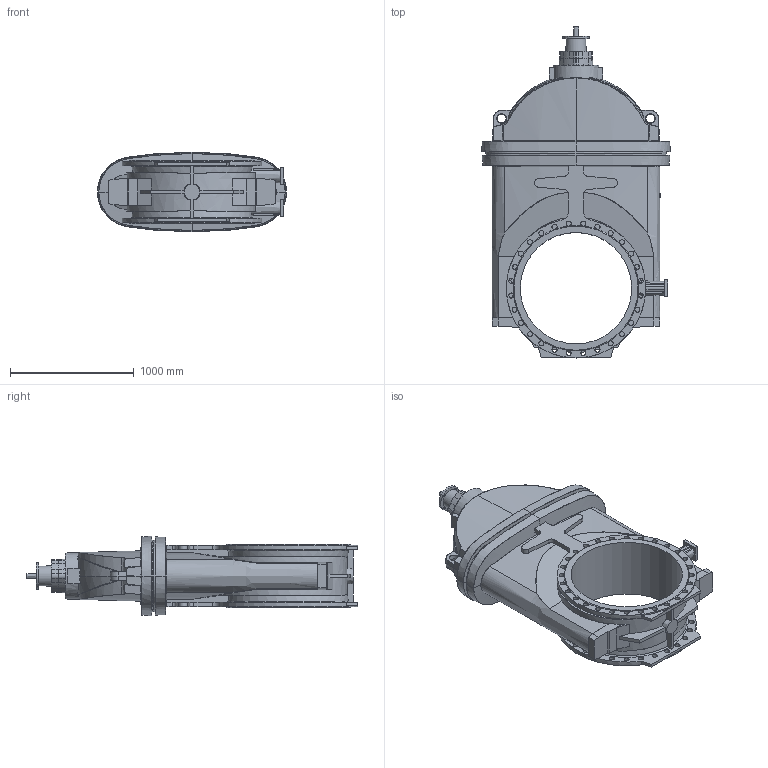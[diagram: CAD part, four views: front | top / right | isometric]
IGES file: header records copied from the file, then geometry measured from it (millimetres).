
Start section: SolidWorks IGES file using analytic representation for surfaces
Global section: file name: \\avksan2\techshare\PBM outline export from Enovia\O_06_30_DN900_X1XXX_AA0.igs; native system: SolidWorks 2012; preprocessor: SolidWorks 2012; author: pbm; date: 190320.110329; units: millimetre
Bounding box: 1525 x 2679.75 x 642.5 mm (x, y, z)
Surface area: 11093957.6 mm2 (no closed solid volume)
Topology: 0 solids, 0 shells, 439 faces, 2918 edges, 2840 vertices
Faces by surface type: bspline 257, revolution 182
